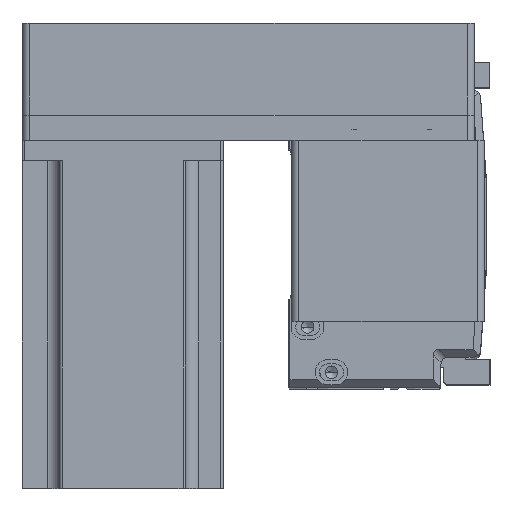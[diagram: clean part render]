
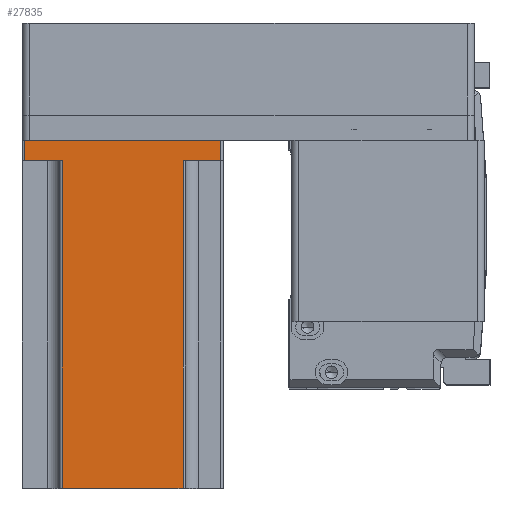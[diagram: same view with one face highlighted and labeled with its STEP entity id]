
A CAD part, top view. The second image highlights one B-rep face of the part: STEP entity #27835.
In plain terms, the highlighted planar face has unit normal (0, 0, 1) as drawn and (0, 1, 0) by its records, which use the part's own axes.
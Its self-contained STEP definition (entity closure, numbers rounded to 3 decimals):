
#849 = VECTOR ( 'NONE', #9211, 1000. ) ;
#874 = DIRECTION ( 'NONE',  ( 0., 0., -1. ) ) ;
#988 = FACE_OUTER_BOUND ( 'NONE', #25002, .T. ) ;
#1010 = ORIENTED_EDGE ( 'NONE', *, *, #33981, .T. ) ;
#1985 = DIRECTION ( 'NONE',  ( 0., 0., 1. ) ) ;
#3569 = VECTOR ( 'NONE', #24472, 1000. ) ;
#4131 = VERTEX_POINT ( 'NONE', #31442 ) ;
#4197 = ORIENTED_EDGE ( 'NONE', *, *, #14764, .T. ) ;
#4961 = VECTOR ( 'NONE', #19568, 1000. ) ;
#5256 = DIRECTION ( 'NONE',  ( 0., 0., -1. ) ) ;
#5269 = DIRECTION ( 'NONE',  ( 0., -1., 0. ) ) ;
#5644 = VECTOR ( 'NONE', #874, 1000. ) ;
#6043 = CARTESIAN_POINT ( 'NONE',  ( 24., 40., 138.3 ) ) ;
#6282 = ORIENTED_EDGE ( 'NONE', *, *, #34125, .F. ) ;
#6586 = VERTEX_POINT ( 'NONE', #39357 ) ;
#6623 = VERTEX_POINT ( 'NONE', #26166 ) ;
#7189 = LINE ( 'NONE', #18870, #34053 ) ;
#7340 = LINE ( 'NONE', #36170, #24216 ) ;
#7594 = LINE ( 'NONE', #32770, #849 ) ;
#9211 = DIRECTION ( 'NONE',  ( -1., 0., 0. ) ) ;
#11187 = CARTESIAN_POINT ( 'NONE',  ( 39., 40., 0. ) ) ;
#12757 = CARTESIAN_POINT ( 'NONE',  ( 25., 40., 8. ) ) ;
#14269 = VERTEX_POINT ( 'NONE', #6043 ) ;
#14764 = EDGE_CURVE ( 'NONE', #6586, #6623, #7189, .T. ) ;
#17248 = CARTESIAN_POINT ( 'NONE',  ( 39., 40., 8. ) ) ;
#17323 = EDGE_CURVE ( 'NONE', #32218, #36092, #7340, .T. ) ;
#17692 = EDGE_CURVE ( 'NONE', #30126, #6586, #40982, .T. ) ;
#17913 = ORIENTED_EDGE ( 'NONE', *, *, #17323, .T. ) ;
#18157 = EDGE_CURVE ( 'NONE', #36092, #30126, #30435, .T. ) ;
#18870 = CARTESIAN_POINT ( 'NONE',  ( -24., 40., 138.3 ) ) ;
#19568 = DIRECTION ( 'NONE',  ( -1., 0., 0. ) ) ;
#20804 = VECTOR ( 'NONE', #5256, 1000. ) ;
#22477 = CARTESIAN_POINT ( 'NONE',  ( -39., 40., 8. ) ) ;
#23121 = VECTOR ( 'NONE', #41982, 1000. ) ;
#24216 = VECTOR ( 'NONE', #42881, 1000. ) ;
#24373 = CARTESIAN_POINT ( 'NONE',  ( 39., 40., 138.3 ) ) ;
#24472 = DIRECTION ( 'NONE',  ( 0., 0., 1. ) ) ;
#25002 = EDGE_LOOP ( 'NONE', ( #26275, #4197, #6282, #1010, #29478, #28259, #17913, #42054 ) ) ;
#25310 = PLANE ( 'NONE',  #31873 ) ;
#25443 = CARTESIAN_POINT ( 'NONE',  ( 40., 40., 138.3 ) ) ;
#26166 = CARTESIAN_POINT ( 'NONE',  ( -24., 40., 138.3 ) ) ;
#26275 = ORIENTED_EDGE ( 'NONE', *, *, #17692, .T. ) ;
#27835 = ADVANCED_FACE ( 'NONE', ( #988 ), #25310, .F. ) ;
#28259 = ORIENTED_EDGE ( 'NONE', *, *, #40217, .T. ) ;
#28824 = DIRECTION ( 'NONE',  ( 1., 0., 0. ) ) ;
#29478 = ORIENTED_EDGE ( 'NONE', *, *, #37917, .F. ) ;
#30126 = VERTEX_POINT ( 'NONE', #22477 ) ;
#30435 = LINE ( 'NONE', #37841, #3569 ) ;
#31442 = CARTESIAN_POINT ( 'NONE',  ( 24., 40., 8. ) ) ;
#31873 = AXIS2_PLACEMENT_3D ( 'NONE', #25443, #5269, #28824 ) ;
#32218 = VERTEX_POINT ( 'NONE', #11187 ) ;
#32770 = CARTESIAN_POINT ( 'NONE',  ( 40., 40., 138.3 ) ) ;
#33558 = LINE ( 'NONE', #24373, #5644 ) ;
#33981 = EDGE_CURVE ( 'NONE', #14269, #4131, #37642, .T. ) ;
#34053 = VECTOR ( 'NONE', #1985, 1000. ) ;
#34125 = EDGE_CURVE ( 'NONE', #14269, #6623, #7594, .T. ) ;
#34916 = VERTEX_POINT ( 'NONE', #17248 ) ;
#35267 = CARTESIAN_POINT ( 'NONE',  ( -25., 40., 8. ) ) ;
#36092 = VERTEX_POINT ( 'NONE', #39208 ) ;
#36170 = CARTESIAN_POINT ( 'NONE',  ( 40., 40., 0. ) ) ;
#37642 = LINE ( 'NONE', #42172, #20804 ) ;
#37841 = CARTESIAN_POINT ( 'NONE',  ( -39., 40., 138.3 ) ) ;
#37917 = EDGE_CURVE ( 'NONE', #34916, #4131, #40746, .T. ) ;
#39208 = CARTESIAN_POINT ( 'NONE',  ( -39., 40., 0. ) ) ;
#39357 = CARTESIAN_POINT ( 'NONE',  ( -24., 40., 8. ) ) ;
#40217 = EDGE_CURVE ( 'NONE', #34916, #32218, #33558, .T. ) ;
#40746 = LINE ( 'NONE', #12757, #4961 ) ;
#40982 = LINE ( 'NONE', #35267, #23121 ) ;
#41982 = DIRECTION ( 'NONE',  ( 1., 0., 0. ) ) ;
#42054 = ORIENTED_EDGE ( 'NONE', *, *, #18157, .T. ) ;
#42172 = CARTESIAN_POINT ( 'NONE',  ( 24., 40., 138.3 ) ) ;
#42881 = DIRECTION ( 'NONE',  ( -1., 0., 0. ) ) ;
